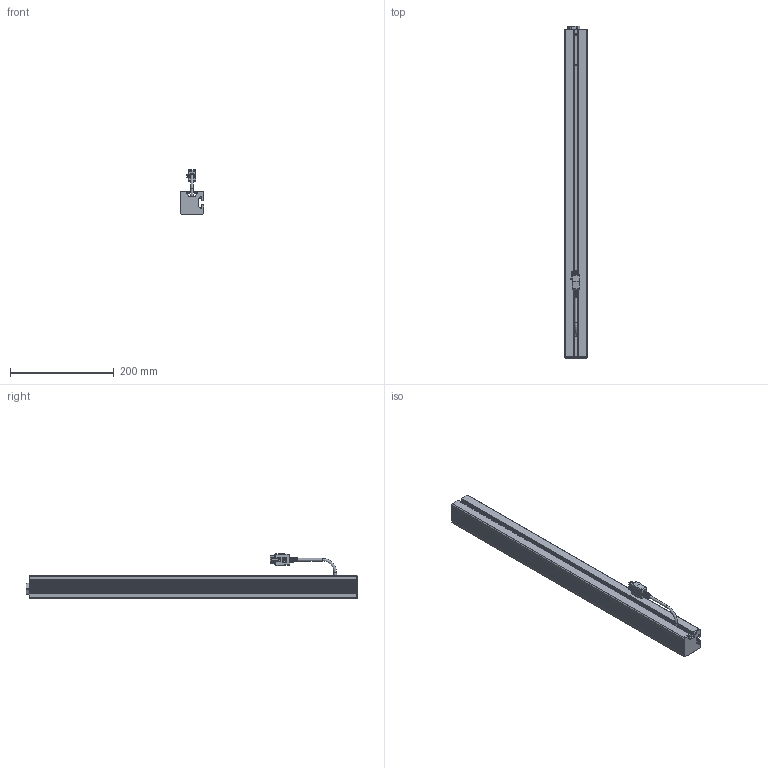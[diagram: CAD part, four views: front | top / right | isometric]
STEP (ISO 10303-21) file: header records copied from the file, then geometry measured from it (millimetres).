
FILE_DESCRIPTION(/* description */ ('Unknown'),/* implementation_level */ '2;1');
FILE_NAME(/* name */ '907.02003_00-Eingefahren',/* time_stamp */ '2022-02-03T15:48:52+01:00',/* author */ ('Unknown'),/* organization */ ('Unknown'),/* preprocessor_version */ 'ST-DEVELOPER v18.1',/* originating_system */ 'Solid Edge',/* authorisation */ 'Unknown');
FILE_SCHEMA (('AUTOMOTIVE_DESIGN {1 0 10303 214 3 1 1}'));
Products named in the file (9): 907.02003; 142.00014; 119.00500; 122.00005; 142.00020; 123.00110; 125.00051; 128.00040; Kabel Molex
Assembly tree (14 placements, depth 2):
  907.02003
    142.00014  x4
    119.00500
    122.00005
    142.00020  x4
    123.00110
    125.00051
    128.00040
    Kabel Molex
Bounding box: 45 x 640 x 86.17 mm (x, y, z)
Volume: 527503.1 mm3; surface area: 430683.7 mm2
Topology: 14 solids, 14 shells, 2748 faces, 7757 edges, 5052 vertices
Faces by surface type: plane 1473, cylinder 938, bspline 175, torus 71, cone 51, sphere 40
Full cylindrical faces by diameter (mm): 2.5 x13, 3 x4, 4 x12, 5 x3, 6.647 x1, 8.376 x2, 17.3 x1, 19 x1, 20.8 x3, 21 x2, 25 x2, 30 x2
Entity records: 94110 total; most frequent: CARTESIAN_POINT 21901, ORIENTED_EDGE 14942, DIRECTION 13725, EDGE_CURVE 7471, VERTEX_POINT 4911, LINE 4645, VECTOR 4645, AXIS2_PLACEMENT_3D 4540
